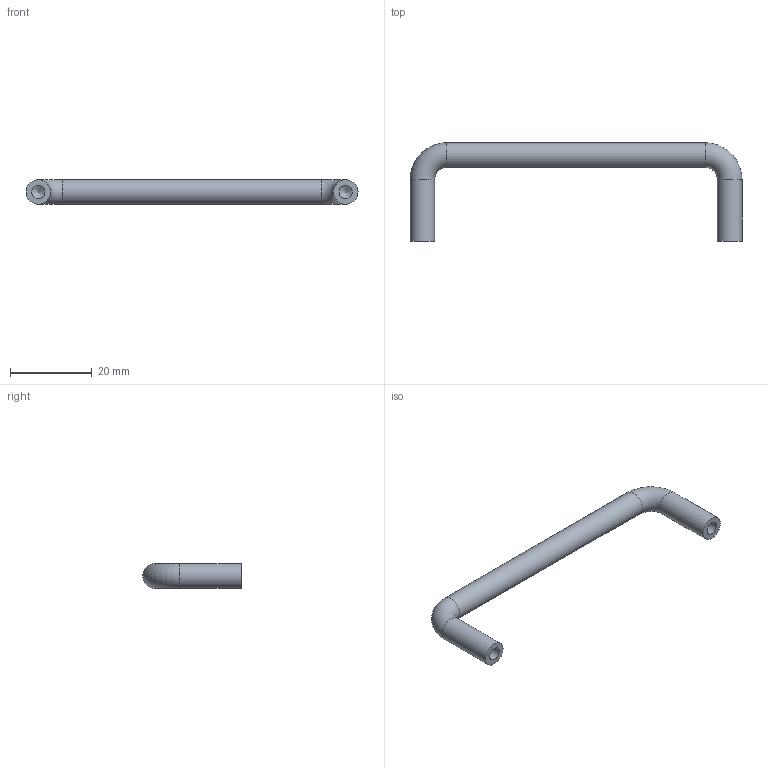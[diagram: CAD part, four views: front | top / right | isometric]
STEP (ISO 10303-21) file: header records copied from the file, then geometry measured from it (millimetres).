
FILE_DESCRIPTION(/* description */ (''),/* implementation_level */ '2;1');
FILE_NAME(/* name */ '\\NAS\db20\A-GS6-75\DR_A-GS6-75.stp',/* time_stamp */ '2017-07-12T10:28:00+09:00',/* author */ ('user'),/* organization */ (''),/* preprocessor_version */ 'ST-DEVELOPER v15.6',/* originating_system */ 'Autodesk Inventor 2015',/* authorisation */ '');
FILE_SCHEMA (('AUTOMOTIVE_DESIGN { 1 0 10303 214 3 1 1 }'));
Length unit declared in the file: millimetre
Products named in the file (1): DR_A-GS6-75
Bounding box: 81 x 24 x 6 mm (x, y, z)
Volume: 3041.5 mm3; surface area: 2310.2 mm2
Topology: 1 solids, 1 shells, 11 faces, 21 edges, 12 vertices
Faces by surface type: cylinder 5, cone 2, torus 2, plane 2
Full cylindrical faces by diameter (mm): 3.242 x2, 6 x3
Entity records: 238 total; most frequent: DIRECTION 44, CARTESIAN_POINT 32, AXIS2_PLACEMENT_3D 22, EDGE_LOOP 20, ORIENTED_EDGE 20, FACE_OUTER_BOUND 11, ADVANCED_FACE 11, CIRCLE 10
